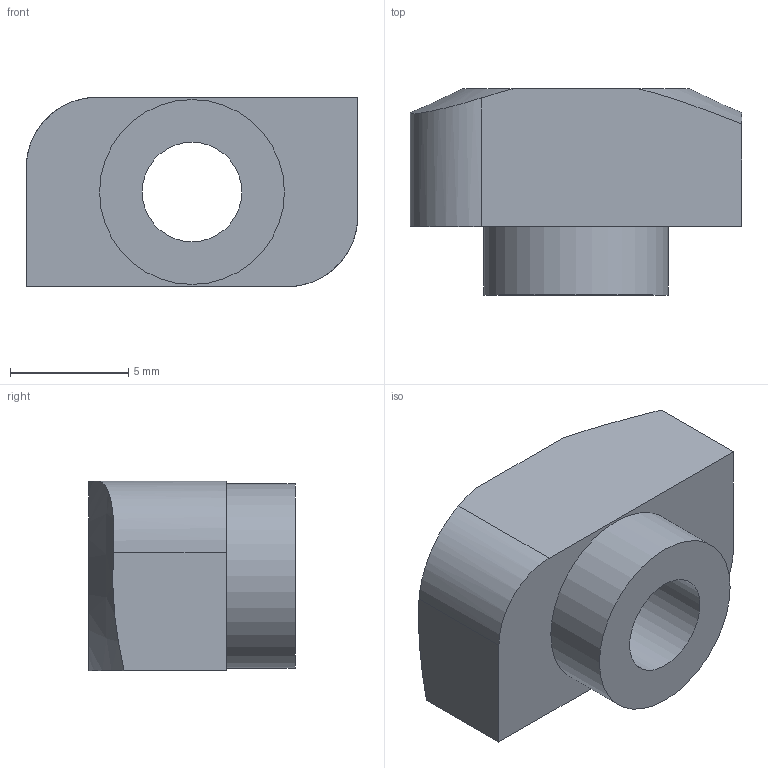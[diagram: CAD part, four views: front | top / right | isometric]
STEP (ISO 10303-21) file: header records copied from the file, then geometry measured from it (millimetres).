
FILE_DESCRIPTION(/* description */ (''),/* implementation_level */ '2;1');
FILE_NAME(/* name */ 'C:\Users\daniele.berto\Desktop\N21-08-M5B.stp',/* time_stamp */ '2022-07-06T07:16:38+02:00',/* author */ ('daniele.berto'),/* organization */ (''),/* preprocessor_version */ 'ST-DEVELOPER v18.1',/* originating_system */ 'Autodesk Inventor 2021',/* authorisation */ '');
FILE_SCHEMA (('CONFIG_CONTROL_DESIGN'));
Length unit declared in the file: millimetre
Products named in the file (1): 5036
Bounding box: 14 x 8.7 x 8 mm (x, y, z)
Volume: 622.9 mm3; surface area: 592.8 mm2
Topology: 1 solids, 1 shells, 13 faces, 30 edges, 20 vertices
Faces by surface type: plane 7, cylinder 4, cone 2
Full cylindrical faces by diameter (mm): 4.2 x1, 7.8 x1
Entity records: 433 total; most frequent: CARTESIAN_POINT 102, ORIENTED_EDGE 60, DIRECTION 58, EDGE_CURVE 30, AXIS2_PLACEMENT_3D 22, VERTEX_POINT 20, EDGE_LOOP 16, LINE 14
